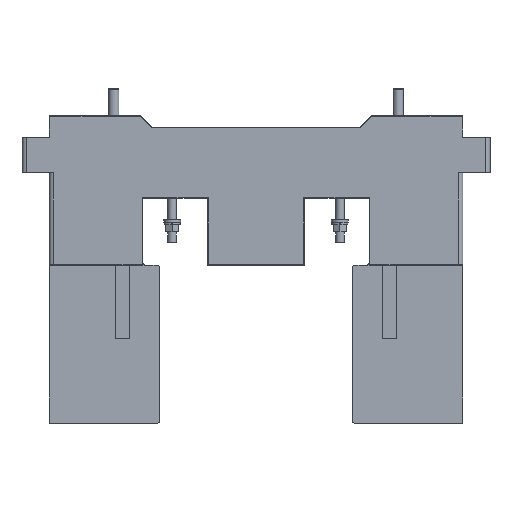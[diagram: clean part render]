
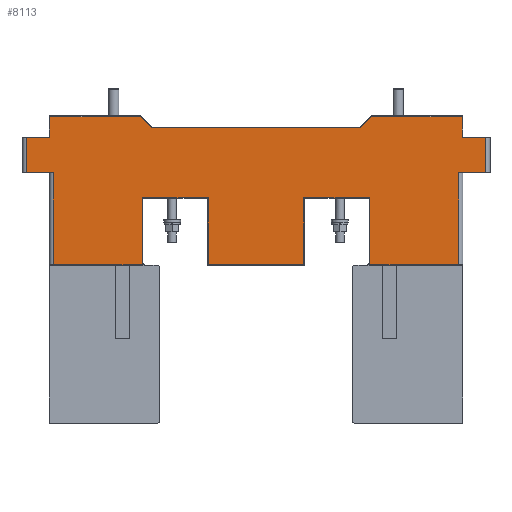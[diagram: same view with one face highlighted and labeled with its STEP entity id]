
A CAD part, front view. The second image highlights one B-rep face of the part: STEP entity #8113.
In plain terms, the highlighted planar face has unit normal (0, -1, 0).
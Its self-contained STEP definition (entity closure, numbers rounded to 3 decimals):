
#3403=FACE_OUTER_BOUND('',#13833,.T.);
#5526=CIRCLE('',#57740,1.);
#5593=CIRCLE('',#57863,1.);
#8113=ADVANCED_FACE('',(#3403),#10369,.T.);
#10369=PLANE('',#58474);
#13833=EDGE_LOOP('',(#24655,#24656,#24657,#24658,#24659,#24660,#24661,#24662,
#24663,#24664,#24665,#24666,#24667,#24668,#24669,#24670,#24671,#24672,#24673,
#24674,#24675,#24676,#24677,#24678,#24679,#24680));
#24655=ORIENTED_EDGE('',*,*,#41430,.F.);
#24656=ORIENTED_EDGE('',*,*,#40092,.T.);
#24657=ORIENTED_EDGE('',*,*,#40128,.T.);
#24658=ORIENTED_EDGE('',*,*,#40127,.T.);
#24659=ORIENTED_EDGE('',*,*,#40124,.T.);
#24660=ORIENTED_EDGE('',*,*,#40121,.T.);
#24661=ORIENTED_EDGE('',*,*,#40117,.T.);
#24662=ORIENTED_EDGE('',*,*,#40085,.T.);
#24663=ORIENTED_EDGE('',*,*,#41980,.T.);
#24664=ORIENTED_EDGE('',*,*,#41455,.T.);
#24665=ORIENTED_EDGE('',*,*,#41461,.F.);
#24666=ORIENTED_EDGE('',*,*,#41026,.T.);
#24667=ORIENTED_EDGE('',*,*,#40955,.T.);
#24668=ORIENTED_EDGE('',*,*,#40903,.T.);
#24669=ORIENTED_EDGE('',*,*,#40857,.F.);
#24670=ORIENTED_EDGE('',*,*,#40832,.T.);
#24671=ORIENTED_EDGE('',*,*,#40797,.T.);
#24672=ORIENTED_EDGE('',*,*,#40763,.T.);
#24673=ORIENTED_EDGE('',*,*,#40738,.T.);
#24674=ORIENTED_EDGE('',*,*,#40731,.T.);
#24675=ORIENTED_EDGE('',*,*,#40722,.F.);
#24676=ORIENTED_EDGE('',*,*,#40729,.T.);
#24677=ORIENTED_EDGE('',*,*,#40750,.T.);
#24678=ORIENTED_EDGE('',*,*,#41022,.T.);
#24679=ORIENTED_EDGE('',*,*,#41433,.T.);
#24680=ORIENTED_EDGE('',*,*,#41426,.T.);
#33798=VERTEX_POINT('',#83468);
#33803=VERTEX_POINT('',#83525);
#34011=VERTEX_POINT('',#84324);
#34013=VERTEX_POINT('',#84330);
#34015=VERTEX_POINT('',#84336);
#34019=VERTEX_POINT('',#84344);
#34040=VERTEX_POINT('',#84400);
#34041=VERTEX_POINT('',#84404);
#34043=VERTEX_POINT('',#84410);
#34045=VERTEX_POINT('',#84416);
#34471=VERTEX_POINT('',#85942);
#34472=VERTEX_POINT('',#85943);
#34476=VERTEX_POINT('',#85955);
#34480=VERTEX_POINT('',#85973);
#34488=VERTEX_POINT('',#85996);
#34494=VERTEX_POINT('',#86019);
#34535=VERTEX_POINT('',#86157);
#34548=VERTEX_POINT('',#86206);
#34569=VERTEX_POINT('',#86288);
#34592=VERTEX_POINT('',#86385);
#34634=VERTEX_POINT('',#86520);
#34637=VERTEX_POINT('',#86528);
#34861=VERTEX_POINT('',#87310);
#34863=VERTEX_POINT('',#87314);
#34881=VERTEX_POINT('',#87371);
#34883=VERTEX_POINT('',#87374);
#40085=EDGE_CURVE('',#34011,#34013,#47087,.T.);
#40092=EDGE_CURVE('',#34019,#34015,#47090,.T.);
#40117=EDGE_CURVE('',#34040,#34011,#47102,.T.);
#40121=EDGE_CURVE('',#34041,#34040,#47104,.T.);
#40124=EDGE_CURVE('',#34043,#34041,#47106,.T.);
#40127=EDGE_CURVE('',#34045,#34043,#47108,.T.);
#40128=EDGE_CURVE('',#34015,#34045,#47109,.T.);
#40722=EDGE_CURVE('',#34471,#34472,#5526,.T.);
#40729=EDGE_CURVE('',#34471,#34476,#47411,.T.);
#40731=EDGE_CURVE('',#33803,#34472,#47413,.T.);
#40738=EDGE_CURVE('',#34480,#33803,#47416,.T.);
#40750=EDGE_CURVE('',#34476,#34488,#47423,.T.);
#40763=EDGE_CURVE('',#34494,#34480,#47426,.T.);
#40797=EDGE_CURVE('',#33798,#34494,#47443,.T.);
#40832=EDGE_CURVE('',#34535,#33798,#47466,.T.);
#40857=EDGE_CURVE('',#34535,#34548,#5593,.T.);
#40903=EDGE_CURVE('',#34569,#34548,#47502,.T.);
#40955=EDGE_CURVE('',#34592,#34569,#47530,.T.);
#41022=EDGE_CURVE('',#34488,#34634,#47573,.T.);
#41026=EDGE_CURVE('',#34637,#34592,#47576,.T.);
#41426=EDGE_CURVE('',#34861,#34863,#47914,.T.);
#41430=EDGE_CURVE('',#34019,#34863,#47917,.T.);
#41433=EDGE_CURVE('',#34634,#34861,#47920,.T.);
#41455=EDGE_CURVE('',#34883,#34881,#47934,.T.);
#41461=EDGE_CURVE('',#34637,#34881,#47938,.T.);
#41980=EDGE_CURVE('',#34013,#34883,#48412,.T.);
#47087=LINE('',#84332,#52681);
#47090=LINE('',#84346,#52684);
#47102=LINE('',#84399,#52696);
#47104=LINE('',#84407,#52698);
#47106=LINE('',#84413,#52700);
#47108=LINE('',#84419,#52702);
#47109=LINE('',#84421,#52703);
#47411=LINE('',#85956,#53005);
#47413=LINE('',#85959,#53007);
#47416=LINE('',#85972,#53010);
#47423=LINE('',#85997,#53017);
#47426=LINE('',#86022,#53020);
#47443=LINE('',#86089,#53037);
#47466=LINE('',#86156,#53060);
#47502=LINE('',#86291,#53096);
#47530=LINE('',#86388,#53124);
#47573=LINE('',#86519,#53167);
#47576=LINE('',#86527,#53170);
#47914=LINE('',#87315,#53508);
#47917=LINE('',#87322,#53511);
#47920=LINE('',#87327,#53514);
#47934=LINE('',#87373,#53528);
#47938=LINE('',#87385,#53532);
#48412=LINE('',#88377,#54006);
#52681=VECTOR('',#67219,1.);
#52684=VECTOR('',#67234,1.);
#52696=VECTOR('',#67288,1.);
#52698=VECTOR('',#67296,1.);
#52700=VECTOR('',#67302,1.);
#52702=VECTOR('',#67308,1.);
#52703=VECTOR('',#67311,1.);
#53005=VECTOR('',#68569,1.);
#53007=VECTOR('',#68573,1.);
#53010=VECTOR('',#68590,1.);
#53017=VECTOR('',#68615,1.);
#53020=VECTOR('',#68648,1.);
#53037=VECTOR('',#68727,1.);
#53060=VECTOR('',#68798,1.);
#53096=VECTOR('',#68960,1.);
#53124=VECTOR('',#69080,1.);
#53167=VECTOR('',#69219,1.);
#53170=VECTOR('',#69226,1.);
#53508=VECTOR('',#70010,1.);
#53511=VECTOR('',#70019,1.);
#53514=VECTOR('',#70024,1.);
#53528=VECTOR('',#70068,1.);
#53532=VECTOR('',#70082,1.);
#54006=VECTOR('',#71024,1.);
#57740=AXIS2_PLACEMENT_3D('',#85941,#68553,#68554);
#57863=AXIS2_PLACEMENT_3D('',#86205,#68863,#68864);
#58474=AXIS2_PLACEMENT_3D('',#88378,#71025,#71026);
#67219=DIRECTION('',(0.,0.,-1.));
#67234=DIRECTION('',(0.,0.,1.));
#67288=DIRECTION('',(-1.,0.,0.));
#67296=DIRECTION('',(-0.707,0.,0.707));
#67302=DIRECTION('',(-1.,0.,0.));
#67308=DIRECTION('',(-0.707,0.,-0.707));
#67311=DIRECTION('',(-1.,0.,0.));
#68553=DIRECTION('',(0.,-1.,0.));
#68554=DIRECTION('',(0.,0.,-1.));
#68569=DIRECTION('',(0.,0.,-1.));
#68573=DIRECTION('',(1.,0.,0.));
#68590=DIRECTION('',(0.,0.,1.));
#68615=DIRECTION('',(1.,0.,0.));
#68648=DIRECTION('',(1.,0.,0.));
#68727=DIRECTION('',(0.,0.,-1.));
#68798=DIRECTION('',(1.,0.,0.));
#68863=DIRECTION('',(0.,-1.,0.));
#68864=DIRECTION('',(0.,0.,-1.));
#68960=DIRECTION('',(0.,0.,1.));
#69080=DIRECTION('',(1.,0.,0.));
#69219=DIRECTION('',(0.,0.,1.));
#69226=DIRECTION('',(0.,0.,-1.));
#70010=DIRECTION('',(0.,0.,1.));
#70019=DIRECTION('',(1.,0.,0.));
#70024=DIRECTION('',(1.,0.,0.));
#70068=DIRECTION('',(0.,0.,-1.));
#70082=DIRECTION('',(-1.,0.,0.));
#71024=DIRECTION('',(-1.,0.,0.));
#71025=DIRECTION('',(0.,-1.,0.));
#71026=DIRECTION('',(0.,0.,-1.));
#83468=CARTESIAN_POINT('',(112.,0.,47.5));
#83525=CARTESIAN_POINT('',(179.,0.,47.5));
#84324=CARTESIAN_POINT('',(0.5,0.,104.5));
#84330=CARTESIAN_POINT('',(0.5,0.,90.));
#84332=CARTESIAN_POINT('',(0.5,0.,0.));
#84336=CARTESIAN_POINT('',(290.5,0.,104.5));
#84344=CARTESIAN_POINT('',(290.5,0.,90.));
#84346=CARTESIAN_POINT('',(290.5,0.,0.));
#84399=CARTESIAN_POINT('',(145.5,0.,104.5));
#84400=CARTESIAN_POINT('',(64.293,0.,104.5));
#84404=CARTESIAN_POINT('',(72.293,0.,96.5));
#84407=CARTESIAN_POINT('',(64.146,0.,104.646));
#84410=CARTESIAN_POINT('',(218.707,0.,96.5));
#84413=CARTESIAN_POINT('',(72.5,0.,96.5));
#84416=CARTESIAN_POINT('',(226.707,0.,104.5));
#84419=CARTESIAN_POINT('',(218.854,0.,96.646));
#84421=CARTESIAN_POINT('',(145.5,0.,104.5));
#85941=CARTESIAN_POINT('',(224.5,0.,46.5));
#85942=CARTESIAN_POINT('',(225.5,0.,46.5));
#85943=CARTESIAN_POINT('',(224.5,0.,47.5));
#85955=CARTESIAN_POINT('',(225.5,0.,0.5));
#85956=CARTESIAN_POINT('',(225.5,0.,0.));
#85959=CARTESIAN_POINT('',(225.,0.,47.5));
#85972=CARTESIAN_POINT('',(179.,0.,0.));
#85973=CARTESIAN_POINT('',(179.,0.,0.5));
#85996=CARTESIAN_POINT('',(288.,0.,0.5));
#85997=CARTESIAN_POINT('',(145.5,0.,0.5));
#86019=CARTESIAN_POINT('',(112.,0.,0.5));
#86022=CARTESIAN_POINT('',(179.5,0.,0.5));
#86089=CARTESIAN_POINT('',(112.,0.,0.));
#86156=CARTESIAN_POINT('',(111.5,0.,47.5));
#86157=CARTESIAN_POINT('',(66.5,0.,47.5));
#86205=CARTESIAN_POINT('',(66.5,0.,46.5));
#86206=CARTESIAN_POINT('',(65.5,0.,46.5));
#86288=CARTESIAN_POINT('',(65.5,0.,0.5));
#86291=CARTESIAN_POINT('',(65.5,0.,47.));
#86385=CARTESIAN_POINT('',(3.,0.,0.5));
#86388=CARTESIAN_POINT('',(145.5,0.,0.5));
#86519=CARTESIAN_POINT('',(288.,0.,0.));
#86520=CARTESIAN_POINT('',(288.,0.,65.));
#86527=CARTESIAN_POINT('',(3.,0.,0.));
#86528=CARTESIAN_POINT('',(3.,0.,65.));
#87310=CARTESIAN_POINT('',(307.,0.,65.));
#87314=CARTESIAN_POINT('',(307.,0.,90.));
#87315=CARTESIAN_POINT('',(307.,0.,0.));
#87322=CARTESIAN_POINT('',(310.,0.,90.));
#87327=CARTESIAN_POINT('',(310.,0.,65.));
#87371=CARTESIAN_POINT('',(-16.,0.,65.));
#87373=CARTESIAN_POINT('',(-16.,0.,0.));
#87374=CARTESIAN_POINT('',(-16.,0.,90.));
#87385=CARTESIAN_POINT('',(-19.,0.,65.));
#88377=CARTESIAN_POINT('',(-19.,0.,90.));
#88378=CARTESIAN_POINT('',(145.5,0.,0.));
